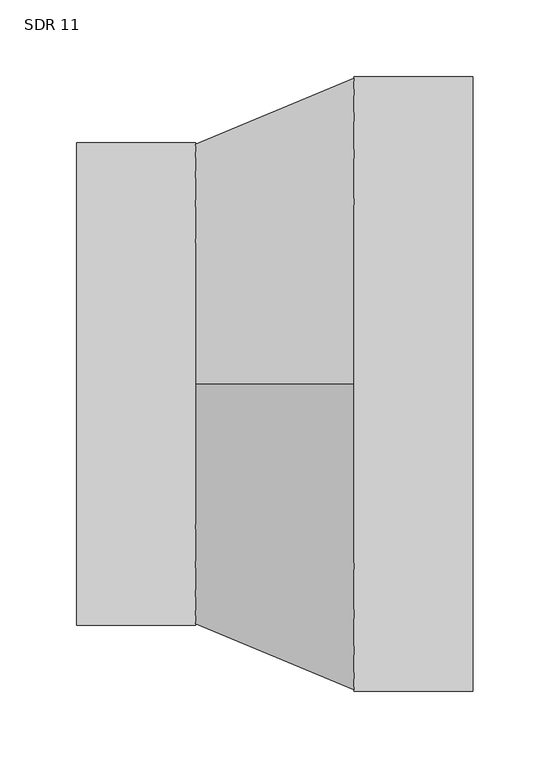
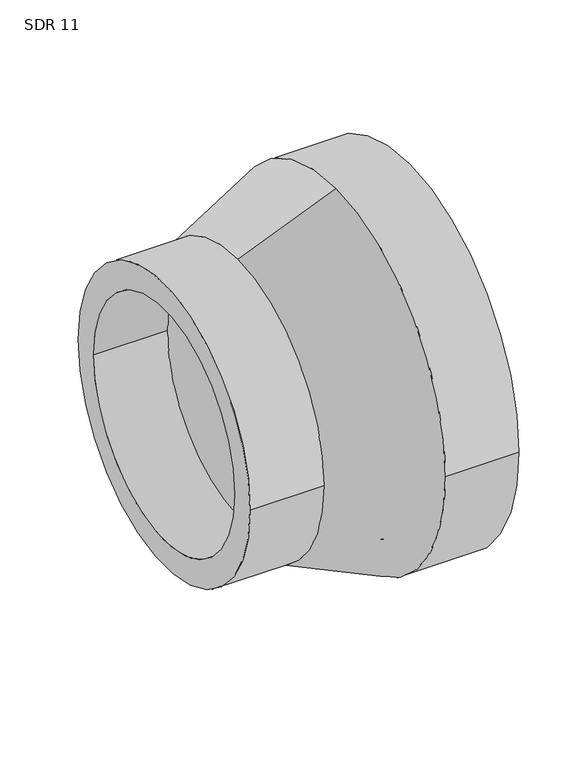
"""IFC4 building model written with IfcOpenShell, lengths in millimetres: pipe fitting geometry, Aquatherm - Reducing Coupling Combined - METRIC : SDR 11."""

from ifc_helpers import new_model, si_unit, frame, origin, place, context, project, spatial, polyline, circle_curve, source, transform, mapped, element, save
from ifc_brep_helpers import plane_surface, cylinder_surface, revolved_surface, advanced_brep


def sdr_11_e5a2f313(model_context):
    return source(origin(), model_context, "Body", "AdvancedBrep", [
        advanced_brep(
        [(-129.54, -157.48, 0.0), (-129.54, 157.48, 0.0), (-129.54, -128.8472727, 0.0), (-129.54, 128.8472727, 0.0), (-51.816, 128.8472727, 0.0), (-51.816, 0.0, 128.8472727), (-51.816, -128.8472727, 0.0), (-51.816, 0.0, -128.8472727), (-51.816, 157.48, 0.0), (-51.816, 0.0, -157.48), (-51.816, -157.48, 0.0), (-51.816, 0.0, 157.48), (129.54, -200.66, 0.0), (129.54, 200.66, 0.0), (129.54, -164.1763636, 0.0), (129.54, 164.1763636, 0.0), (51.816, -200.66, 0.0), (51.816, 0.0, -200.66), (51.816, 200.66, 0.0), (51.816, 0.0, 200.66), (51.816, -164.1763636, 0.0), (51.816, 0.0, 164.1763636), (51.816, 164.1763636, 0.0), (51.816, 0.0, -164.1763636)],
        [
            (0, 1, circle_curve(frame((-129.54, 0.0, 0.0), z_axis=(-1.0, 0.0, 0.0), x_axis=(0.0, 1.0, 0.0)), 157.48)),
            (1, 0, circle_curve(frame((-129.54, 0.0, 0.0), z_axis=(-1.0, 0.0, 0.0), x_axis=(0.0, 1.0, 0.0)), 157.48)),
            (2, 3, circle_curve(frame((-129.54, 0.0, 0.0), z_axis=(1.0, 0.0, 0.0), x_axis=(0.0, 1.0, 0.0)), 128.8472727)),
            (3, 2, circle_curve(frame((-129.54, 0.0, 0.0), z_axis=(1.0, 0.0, 0.0), x_axis=(0.0, 1.0, 0.0)), 128.8472727)),
            (3, 4),
            (4, 5, circle_curve(frame((-51.816, 0.0, 0.0), z_axis=(1.0, 0.0, 0.0), x_axis=(0.0, 1.0, 0.0)), 128.8472727)),
            (5, 6, circle_curve(frame((-51.816, 0.0, 0.0), z_axis=(1.0, 0.0, 0.0), x_axis=(0.0, 1.0, 0.0)), 128.8472727)),
            (6, 2),
            (6, 7, circle_curve(frame((-51.816, 0.0, 0.0), z_axis=(1.0, 0.0, 0.0), x_axis=(0.0, 1.0, 0.0)), 128.8472727)),
            (7, 4, circle_curve(frame((-51.816, 0.0, 0.0), z_axis=(1.0, 0.0, 0.0), x_axis=(0.0, 1.0, 0.0)), 128.8472727)),
            (1, 8),
            (8, 9, circle_curve(frame((-51.816, 0.0, 0.0), z_axis=(-1.0, 0.0, 0.0), x_axis=(0.0, 1.0, 0.0)), 157.48)),
            (9, 10, circle_curve(frame((-51.816, 0.0, 0.0), z_axis=(-1.0, 0.0, 0.0), x_axis=(0.0, 1.0, 0.0)), 157.48)),
            (10, 0),
            (10, 11, circle_curve(frame((-51.816, 0.0, 0.0), z_axis=(-1.0, 0.0, 0.0), x_axis=(0.0, 1.0, 0.0)), 157.48)),
            (11, 8, circle_curve(frame((-51.816, 0.0, 0.0), z_axis=(-1.0, 0.0, 0.0), x_axis=(0.0, 1.0, 0.0)), 157.48)),
            (12, 13, circle_curve(frame((129.54, 0.0, 0.0), z_axis=(1.0, 0.0, 0.0), x_axis=(0.0, 1.0, 0.0)), 200.66)),
            (13, 12, circle_curve(frame((129.54, 0.0, 0.0), z_axis=(1.0, 0.0, 0.0), x_axis=(0.0, 1.0, 0.0)), 200.66)),
            (14, 15, circle_curve(frame((129.54, 0.0, 0.0), z_axis=(-1.0, 0.0, 0.0), x_axis=(0.0, 1.0, 0.0)), 164.1763636)),
            (15, 14, circle_curve(frame((129.54, 0.0, 0.0), z_axis=(-1.0, 0.0, 0.0), x_axis=(0.0, 1.0, 0.0)), 164.1763636)),
            (12, 16),
            (16, 17, circle_curve(frame((51.816, 0.0, 0.0), z_axis=(1.0, 0.0, 0.0), x_axis=(0.0, 1.0, 0.0)), 200.66)),
            (17, 18, circle_curve(frame((51.816, 0.0, 0.0), z_axis=(1.0, 0.0, 0.0), x_axis=(0.0, 1.0, 0.0)), 200.66)),
            (18, 13),
            (18, 19, circle_curve(frame((51.816, 0.0, 0.0), z_axis=(1.0, 0.0, 0.0), x_axis=(0.0, 1.0, 0.0)), 200.66)),
            (19, 16, circle_curve(frame((51.816, 0.0, 0.0), z_axis=(1.0, 0.0, 0.0), x_axis=(0.0, 1.0, 0.0)), 200.66)),
            (14, 20),
            (20, 21, circle_curve(frame((51.816, 0.0, 0.0), z_axis=(-1.0, 0.0, 0.0), x_axis=(0.0, 1.0, 0.0)), 164.1763636)),
            (21, 22, circle_curve(frame((51.816, 0.0, 0.0), z_axis=(-1.0, 0.0, 0.0), x_axis=(0.0, 1.0, 0.0)), 164.1763636)),
            (22, 15),
            (22, 23, circle_curve(frame((51.816, 0.0, 0.0), z_axis=(-1.0, 0.0, 0.0), x_axis=(0.0, 1.0, 0.0)), 164.1763636)),
            (23, 20, circle_curve(frame((51.816, 0.0, 0.0), z_axis=(-1.0, 0.0, 0.0), x_axis=(0.0, 1.0, 0.0)), 164.1763636)),
            (11, 19),
            (17, 9),
            (21, 5),
            (7, 23),
        ],
        [
            plane_surface(frame((-129.54, 128.8472727, 0.0), z_axis=(-1.0, 0.0, 0.0), x_axis=(0.0, 0.0, 1.0))),
            revolved_surface(polyline([(-129.54, 128.8472727, 0.0), (-51.816, 128.8472727, 0.0)]), (-129.54, 0.0, 0.0), (-1.0, 0.0, 0.0)),
            cylinder_surface(frame((0.0, 0.0, 0.0), z_axis=(1.0, 0.0, 0.0), x_axis=(0.0, 1.0, 0.0)), 157.48),
            plane_surface(frame((129.54, 200.66, 0.0), z_axis=(1.0, 0.0, 0.0), x_axis=(0.0, 0.0, 1.0))),
            cylinder_surface(frame((51.816, 0.0, 0.0), z_axis=(1.0, 0.0, 0.0), x_axis=(0.0, 1.0, 0.0)), 200.66),
            revolved_surface(polyline([(51.816, 164.1763636, 0.0), (129.54, 164.1763636, 0.0)]), (0.0, 0.0, 0.0), (-1.0, 0.0, 0.0)),
            revolved_surface(polyline([(51.816, 0.0, 200.66), (-51.816, 0.0, 157.48)]), (-704.7995384, 0.0, 0.0), (-1.0, 0.0, 0.0)),
            revolved_surface(polyline([(-51.816, 0.0, 128.8472727), (51.816, 0.0, 164.1763636)]), (-704.7995384, 0.0, 0.0), (-1.0, 0.0, 0.0)),
        ],
        [
            (0, [[1, 2], [3, 4]]),
            (1, [[-4, 5, 6, 7, 8]]),
            (1, [[-3, -8, 9, 10, -5]]),
            (2, [[-2, 11, 12, 13, 14]]),
            (2, [[-1, -14, 15, 16, -11]]),
            (3, [[17, 18], [19, 20]]),
            (4, [[-17, 21, 22, 23, 24]]),
            (4, [[-18, -24, 25, 26, -21]]),
            (5, [[-19, 27, 28, 29, 30]]),
            (5, [[-20, -30, 31, 32, -27]]),
            (6, [[33, -25, -23, 34, -12, -16]]),
            (6, [[-33, -15, -13, -34, -22, -26]]),
            (7, [[35, -6, -10, 36, -31, -29]]),
            (7, [[-35, -28, -32, -36, -9, -7]]),
        ],
    ),
    ])


if __name__ == "__main__":
    model = new_model("IFC4")
    model_context = context("Model", 3, world=origin())
    ifc_project = project(units=[si_unit("LENGTHUNIT", "METRE", prefix="MILLI")], contexts=[model_context])
    site = spatial("IfcSite", under=ifc_project)
    building = spatial("IfcBuilding", under=site)
    placement = place(None, origin())
    sdr_11_shape = sdr_11_e5a2f313(model_context)
    element("IfcPipeFitting", 1, ObjectType="Aquatherm - Reducing Coupling Combined - METRIC : SDR 11", at=placement, inside=building, context=model_context, shape_type="MappedRepresentation", body=[
        mapped(sdr_11_shape, transform((0.0, 0.0, 0.0), x_axis=(1.0, 0.0, 0.0), y_axis=(0.0, 1.0, 0.0), z_axis=(0.0, 0.0, 1.0))),
    ])
    save(model, "model.ifc")
